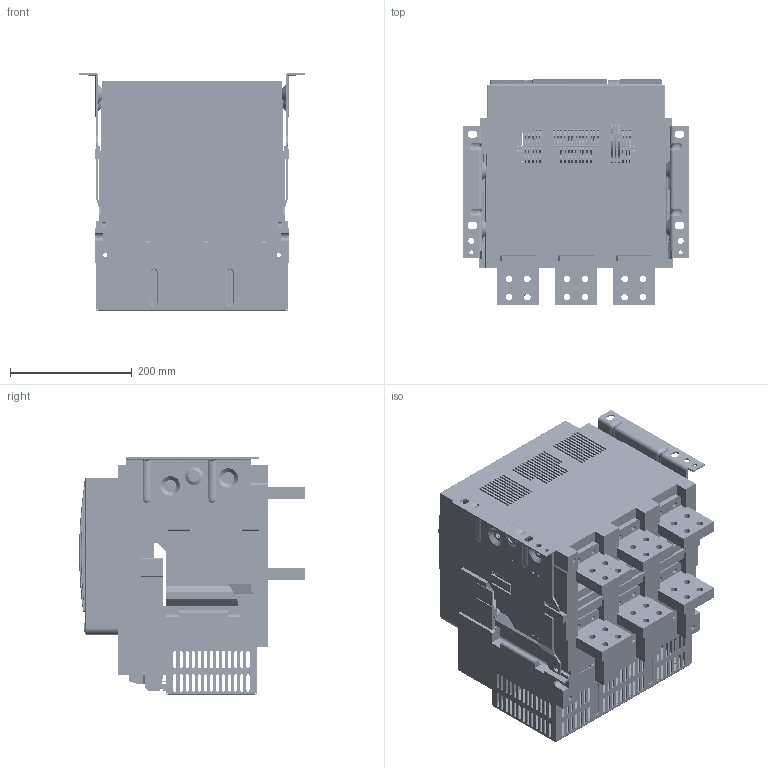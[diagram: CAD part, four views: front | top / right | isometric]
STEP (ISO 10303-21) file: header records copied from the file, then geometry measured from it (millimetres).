
FILE_DESCRIPTION(/* description */ (''),/* implementation_level */ '2;1');
FILE_NAME(/* name */ 'C:/Users/carlos.gonzalez/Documents/ADRIAN_TEMP_DRAWING/Ex9A25_3P_2500_F_PB_Drawing.step',/* time_stamp */ '2021-10-14T12:33:20+02:00',/* author */ (''),/* organization */ (''),/* preprocessor_version */ 'ST-DEVELOPER v18.1',/* originating_system */ 'Autodesk Translation Framework v10.10.0.1391',/* authorisation */ '');
FILE_SCHEMA (('AUTOMOTIVE_DESIGN { 1 0 10303 214 3 1 1 }'));
Products named in the file (36): Ex9A25_3P_2500_F; Auxiliary terminals; EX9A25-GDS-DZ_ASM; 8060A03101011; UKK_3-SELECT-81050_1; D_UKK_3_5-SELECT-6580; 0800886_E-NS-35-N_SELECT; Cover; 8253A0101108-1; 8253A0101010; 5300A15261172_ASM; 8300A0101133; 8860A0724001; 8235A0101103; 8253A0101002; 8282A0820014; 8320A0101121-0814; 8860A1424194; 8253A0101106-1; 8253A0101107-1; 8ZTD_282_1203_AF1; Internal components; 2500-JIZUO-3P; 2500-DIBAN-3P; 8060A0306109; 8060A0306108; 8300A0306005; 8ZTD_123_167_A; 8ZTD_123_166_A; Smart unit; 5043A0101001; 8320A0101004; 8005A0101008; 8860A1424009; Main terminals; 8580A0412108
Assembly tree (75 placements, depth 4):
  Ex9A25_3P_2500_F
    Auxiliary terminals
      EX9A25-GDS-DZ_ASM
        8060A03101011
        0800886_E-NS-35-N_SELECT  x2
        UKK_3-SELECT-81050_1  x34
        D_UKK_3_5-SELECT-6580
    Cover
      8253A0101108-1
      8253A0101010
      5300A15261172_ASM
        8300A0101133
        8860A0724001
        8235A0101103
        8253A0101002
        8282A0820014
        8320A0101121-0814
        8860A1424194
        8253A0101106-1
        8253A0101107-1
        8ZTD_282_1203_AF1  x2
    Internal components
      2500-JIZUO-3P
      2500-DIBAN-3P
      8060A0306109
      8060A0306108
      8300A0306005
      8ZTD_123_167_A
      8ZTD_123_166_A
    Smart unit
      5043A0101001
      8320A0101004
      8005A0101008
      8860A1424009
    Main terminals
      8580A0412108  x6
Bounding box: 370 x 370.99 x 392 mm (x, y, z)
Volume: 16493728.1 mm3; surface area: 2267473.8 mm2
Topology: 68 solids, 97 shells, 13321 faces, 36148 edges, 23698 vertices
Faces by surface type: plane 10705, cylinder 1917, bspline 276, torus 227, cone 125, sphere 71
Full cylindrical faces by diameter (mm): 2 x7, 2.1 x2, 2.5 x3, 2.6 x2, 3 x11, 3.5 x11, 4 x12, 4.2 x4, 4.3 x1, 4.5 x2, 5 x16, 5.008 x1, 6 x11, 6.1 x1, 6.2 x2, 6.5 x5, 7 x4, 8 x4, 8.3 x2, 8.5 x29, 9 x2, 10 x10, 11 x24, 12 x5, 12.5 x1, 14 x1, 15 x1, 16 x1, 17 x1, 18 x2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
Entity records: 206003 total; most frequent: CARTESIAN_POINT 82328, ORIENTED_EDGE 26002, DIRECTION 24346, EDGE_CURVE 13026, LINE 9326, VECTOR 9326, VERTEX_POINT 8470, AXIS2_PLACEMENT_3D 7510
